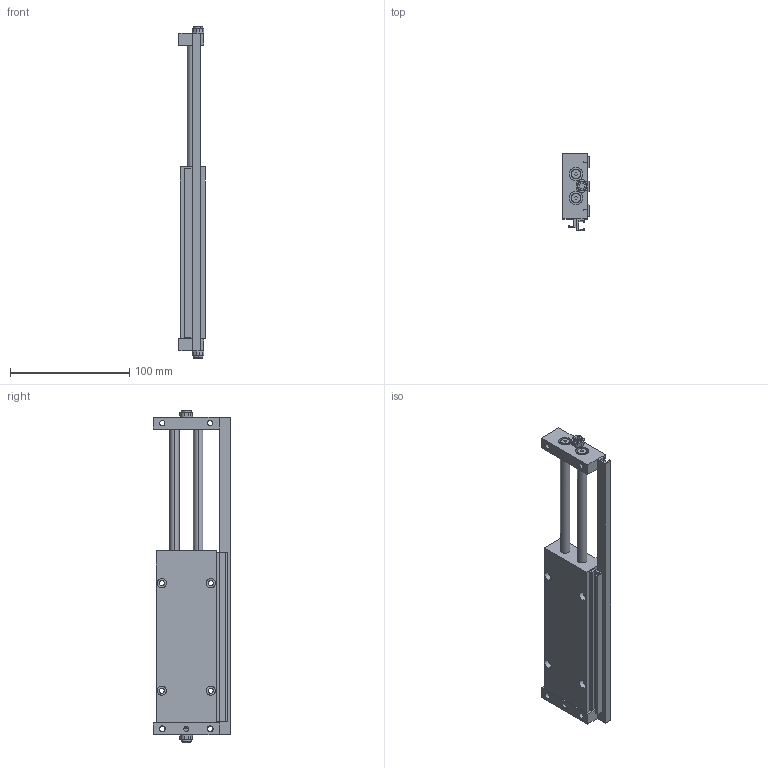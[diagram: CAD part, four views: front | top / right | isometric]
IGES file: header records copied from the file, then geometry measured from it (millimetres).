
Global section: file name: No Iges File Name specified; native system: Autodesk Inventor 2011; preprocessor: AutoDesk Inventor Iges Exporter R2011; author: nozzaem1; date: 20110516.134021; units: millimetre
Bounding box: 22 x 64.6 x 278 mm (x, y, z)
Volume: 191049.5 mm3; surface area: 72083.8 mm2
Topology: 8 solids, 8 shells, 295 faces, 686 edges, 447 vertices
Faces by surface type: plane 122, bspline 95, cylinder 38, revolution 20, cone 20
